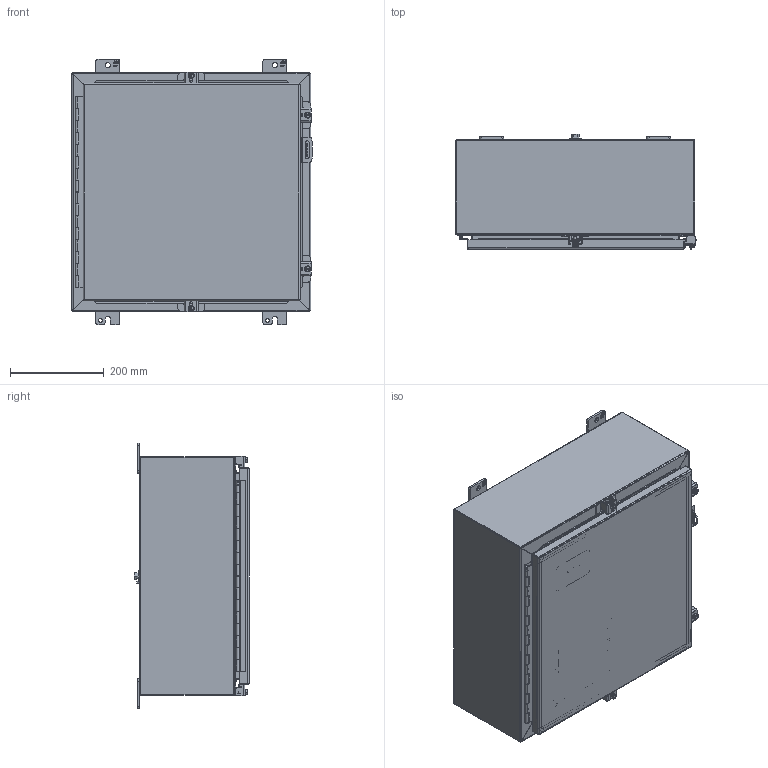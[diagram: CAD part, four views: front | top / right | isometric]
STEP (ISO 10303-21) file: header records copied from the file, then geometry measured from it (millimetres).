
FILE_DESCRIPTION(/* description */ ('Unknown'),/* implementation_level */ '2;1');
FILE_NAME(/* name */ '1418N4D8',/* time_stamp */ '2018-10-11T09:28:55-04:00',/* author */ ('Unknown'),/* organization */ ('Unknown'),/* preprocessor_version */ 'ST-DEVELOPER v16.7',/* originating_system */ 'DEX',/* authorisation */ $);
FILE_SCHEMA (('AUTOMOTIVE_DESIGN {1 0 10303 214 3 1 1}'));
Length unit declared in the file: millimetre
Products named in the file (31): 1418N4D8; COM40153-1; COM40673; STD21878; std26094; COM56226; COM40153-2; HNG10620-16C; COM48437; FET07710; HNG10620-16B; HNG10620-16P; COM42780; BUL10020; KIT95018; WAF25059; NTS166105; LAB30005; COM70219_oa_0; AKT90223; SPR20265; SCC19011; WAF25035; COM42667; AKT95002; QLB20183; KIT90256; NTS165305; NTS16535; PKT66
Assembly tree (47 placements, depth 3):
  1418N4D8
    COM40153-1
    COM40673
    STD21878
    std26094  x4
    COM56226
      COM40153-2
      HNG10620-16C
      COM56226
      STD21878
    COM48437
    FET07710  x4
    HNG10620-16B
    HNG10620-16P
    COM42780  x4
    BUL10020
    KIT95018
      WAF25059
      NTS166105
      LAB30005
    COM70219_oa_0
    AKT90223  x4
      SPR20265
      SCC19011
      WAF25035
      COM42667
    AKT95002  x2
      WAF25059
      NTS166105
    QLB20183
    KIT90256
      LAB30005
      NTS165305
      NTS16535
    PKT66
Bounding box: 511.2 x 245.52 x 565.15 mm (x, y, z)
Volume: 2681158.4 mm3; surface area: 2763048.3 mm2
Topology: 49 solids, 50 shells, 1617 faces, 4185 edges, 2708 vertices
Faces by surface type: plane 1028, cylinder 378, bspline 159, cone 26, torus 24, sphere 2
Full cylindrical faces by diameter (mm): 3.175 x1, 4.763 x1, 4.976 x1, 5.41 x4, 6.198 x4, 6.35 x3, 6.731 x4, 7.137 x2, 7.805 x3, 7.938 x4, 8.382 x4, 9.525 x4, 9.906 x4, 11.113 x4, 11.303 x3, 12.7 x8, 16.51 x4, 25.4 x3, 88.9 x1
Entity records: 34353 total; most frequent: CARTESIAN_POINT 10056, ORIENTED_EDGE 5128, DIRECTION 4387, EDGE_CURVE 2564, LINE 1715, VECTOR 1715, VERTEX_POINT 1649, AXIS2_PLACEMENT_3D 1336
